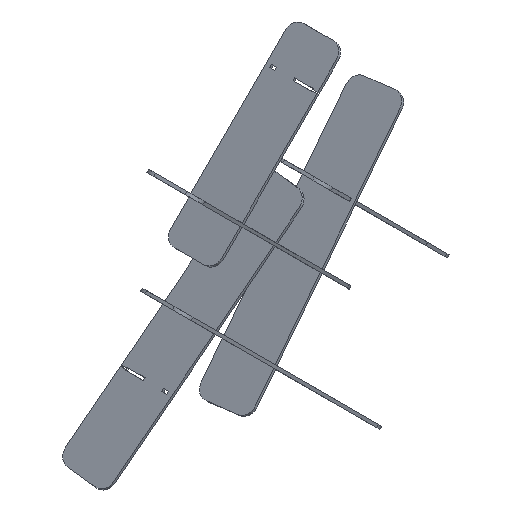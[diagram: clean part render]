
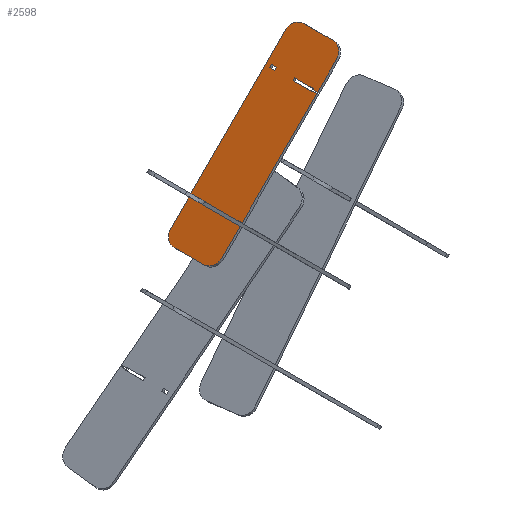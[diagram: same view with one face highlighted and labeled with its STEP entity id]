
A CAD part, isometric view. The second image highlights one B-rep face of the part: STEP entity #2598.
In plain terms, the highlighted planar face has unit normal (-0.707, 0, 0.707) as drawn and (0, 0, 1) by its records, which use the part's own axes.
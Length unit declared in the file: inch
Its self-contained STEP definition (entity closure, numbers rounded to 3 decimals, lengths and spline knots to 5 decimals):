
#61=FACE_BOUND('',#443,.T.);
#62=FACE_BOUND('',#444,.T.);
#176=PLANE('',#2824);
#302=FACE_OUTER_BOUND('',#442,.T.);
#442=EDGE_LOOP('',(#2429,#2430,#2431,#2432,#2433,#2434,#2435,#2436,#2437,
#2438,#2439,#2440,#2441,#2442,#2443,#2444,#2445,#2446,#2447,#2448,#2449,
#2450,#2451,#2452));
#443=EDGE_LOOP('',(#2453,#2454,#2455,#2456));
#444=EDGE_LOOP('',(#2457,#2458,#2459,#2460));
#697=LINE('',#4037,#1033);
#727=LINE('',#4105,#1063);
#731=LINE('',#4115,#1067);
#734=LINE('',#4124,#1070);
#736=LINE('',#4128,#1072);
#738=LINE('',#4132,#1074);
#740=LINE('',#4135,#1076);
#742=LINE('',#4140,#1078);
#744=LINE('',#4144,#1080);
#746=LINE('',#4148,#1082);
#748=LINE('',#4151,#1084);
#750=LINE('',#4156,#1086);
#752=LINE('',#4160,#1088);
#754=LINE('',#4164,#1090);
#756=LINE('',#4168,#1092);
#758=LINE('',#4172,#1094);
#760=LINE('',#4176,#1096);
#762=LINE('',#4180,#1098);
#764=LINE('',#4184,#1100);
#766=LINE('',#4188,#1102);
#768=LINE('',#4192,#1104);
#770=LINE('',#4196,#1106);
#772=LINE('',#4200,#1108);
#774=LINE('',#4204,#1110);
#776=LINE('',#4207,#1112);
#777=LINE('',#4209,#1113);
#778=LINE('',#4212,#1114);
#780=LINE('',#4215,#1116);
#1033=VECTOR('',#3315,0.3937);
#1063=VECTOR('',#3359,0.3937);
#1067=VECTOR('',#3369,0.3937);
#1070=VECTOR('',#3378,0.3937);
#1072=VECTOR('',#3382,0.3937);
#1074=VECTOR('',#3386,0.3937);
#1076=VECTOR('',#3390,0.3937);
#1078=VECTOR('',#3394,0.3937);
#1080=VECTOR('',#3398,0.3937);
#1082=VECTOR('',#3402,0.3937);
#1084=VECTOR('',#3406,0.3937);
#1086=VECTOR('',#3410,0.3937);
#1088=VECTOR('',#3414,0.3937);
#1090=VECTOR('',#3418,0.3937);
#1092=VECTOR('',#3422,0.3937);
#1094=VECTOR('',#3426,0.3937);
#1096=VECTOR('',#3430,0.3937);
#1098=VECTOR('',#3434,0.3937);
#1100=VECTOR('',#3438,0.3937);
#1102=VECTOR('',#3442,0.3937);
#1104=VECTOR('',#3446,0.3937);
#1106=VECTOR('',#3450,0.3937);
#1108=VECTOR('',#3454,0.3937);
#1110=VECTOR('',#3458,0.3937);
#1112=VECTOR('',#3462,0.3937);
#1113=VECTOR('',#3465,0.3937);
#1114=VECTOR('',#3468,0.3937);
#1116=VECTOR('',#3472,0.3937);
#1133=CIRCLE('',#2784,2.);
#1138=CIRCLE('',#2792,2.);
#1139=CIRCLE('',#2795,2.);
#1140=CIRCLE('',#2798,2.);
#1317=VERTEX_POINT('',#4024);
#1318=VERTEX_POINT('',#4025);
#1322=VERTEX_POINT('',#4035);
#1352=VERTEX_POINT('',#4099);
#1353=VERTEX_POINT('',#4103);
#1354=VERTEX_POINT('',#4107);
#1355=VERTEX_POINT('',#4108);
#1356=VERTEX_POINT('',#4113);
#1357=VERTEX_POINT('',#4117);
#1358=VERTEX_POINT('',#4121);
#1359=VERTEX_POINT('',#4123);
#1360=VERTEX_POINT('',#4127);
#1361=VERTEX_POINT('',#4131);
#1362=VERTEX_POINT('',#4137);
#1363=VERTEX_POINT('',#4139);
#1364=VERTEX_POINT('',#4143);
#1365=VERTEX_POINT('',#4147);
#1366=VERTEX_POINT('',#4153);
#1367=VERTEX_POINT('',#4155);
#1368=VERTEX_POINT('',#4159);
#1369=VERTEX_POINT('',#4163);
#1370=VERTEX_POINT('',#4167);
#1371=VERTEX_POINT('',#4171);
#1372=VERTEX_POINT('',#4175);
#1373=VERTEX_POINT('',#4179);
#1374=VERTEX_POINT('',#4183);
#1375=VERTEX_POINT('',#4187);
#1376=VERTEX_POINT('',#4191);
#1377=VERTEX_POINT('',#4195);
#1378=VERTEX_POINT('',#4199);
#1379=VERTEX_POINT('',#4203);
#1380=VERTEX_POINT('',#4211);
#1645=EDGE_CURVE('',#1317,#1318,#1133,.T.);
#1651=EDGE_CURVE('',#1317,#1322,#697,.T.);
#1682=EDGE_CURVE('',#1352,#1322,#1138,.T.);
#1685=EDGE_CURVE('',#1352,#1353,#727,.T.);
#1686=EDGE_CURVE('',#1354,#1355,#1139,.T.);
#1690=EDGE_CURVE('',#1354,#1356,#731,.T.);
#1691=EDGE_CURVE('',#1357,#1353,#1140,.T.);
#1694=EDGE_CURVE('',#1359,#1358,#734,.T.);
#1696=EDGE_CURVE('',#1360,#1359,#736,.T.);
#1698=EDGE_CURVE('',#1361,#1360,#738,.T.);
#1700=EDGE_CURVE('',#1358,#1361,#740,.T.);
#1702=EDGE_CURVE('',#1363,#1362,#742,.T.);
#1704=EDGE_CURVE('',#1364,#1363,#744,.T.);
#1706=EDGE_CURVE('',#1365,#1364,#746,.T.);
#1708=EDGE_CURVE('',#1362,#1365,#748,.T.);
#1710=EDGE_CURVE('',#1367,#1366,#750,.T.);
#1712=EDGE_CURVE('',#1368,#1367,#752,.T.);
#1714=EDGE_CURVE('',#1369,#1368,#754,.T.);
#1716=EDGE_CURVE('',#1370,#1369,#756,.T.);
#1718=EDGE_CURVE('',#1371,#1370,#758,.T.);
#1720=EDGE_CURVE('',#1372,#1371,#760,.T.);
#1722=EDGE_CURVE('',#1373,#1372,#762,.T.);
#1724=EDGE_CURVE('',#1374,#1373,#764,.T.);
#1726=EDGE_CURVE('',#1375,#1374,#766,.T.);
#1728=EDGE_CURVE('',#1376,#1375,#768,.T.);
#1730=EDGE_CURVE('',#1377,#1376,#770,.T.);
#1732=EDGE_CURVE('',#1378,#1377,#772,.T.);
#1734=EDGE_CURVE('',#1379,#1378,#774,.T.);
#1736=EDGE_CURVE('',#1356,#1379,#776,.T.);
#1737=EDGE_CURVE('',#1357,#1355,#777,.T.);
#1738=EDGE_CURVE('',#1380,#1318,#778,.T.);
#1740=EDGE_CURVE('',#1366,#1380,#780,.T.);
#2429=ORIENTED_EDGE('',*,*,#1645,.F.);
#2430=ORIENTED_EDGE('',*,*,#1651,.T.);
#2431=ORIENTED_EDGE('',*,*,#1682,.F.);
#2432=ORIENTED_EDGE('',*,*,#1685,.T.);
#2433=ORIENTED_EDGE('',*,*,#1691,.F.);
#2434=ORIENTED_EDGE('',*,*,#1737,.T.);
#2435=ORIENTED_EDGE('',*,*,#1686,.F.);
#2436=ORIENTED_EDGE('',*,*,#1690,.T.);
#2437=ORIENTED_EDGE('',*,*,#1736,.T.);
#2438=ORIENTED_EDGE('',*,*,#1734,.T.);
#2439=ORIENTED_EDGE('',*,*,#1732,.T.);
#2440=ORIENTED_EDGE('',*,*,#1730,.T.);
#2441=ORIENTED_EDGE('',*,*,#1728,.T.);
#2442=ORIENTED_EDGE('',*,*,#1726,.T.);
#2443=ORIENTED_EDGE('',*,*,#1724,.T.);
#2444=ORIENTED_EDGE('',*,*,#1722,.T.);
#2445=ORIENTED_EDGE('',*,*,#1720,.T.);
#2446=ORIENTED_EDGE('',*,*,#1718,.T.);
#2447=ORIENTED_EDGE('',*,*,#1716,.T.);
#2448=ORIENTED_EDGE('',*,*,#1714,.T.);
#2449=ORIENTED_EDGE('',*,*,#1712,.T.);
#2450=ORIENTED_EDGE('',*,*,#1710,.T.);
#2451=ORIENTED_EDGE('',*,*,#1740,.T.);
#2452=ORIENTED_EDGE('',*,*,#1738,.T.);
#2453=ORIENTED_EDGE('',*,*,#1708,.T.);
#2454=ORIENTED_EDGE('',*,*,#1706,.T.);
#2455=ORIENTED_EDGE('',*,*,#1704,.T.);
#2456=ORIENTED_EDGE('',*,*,#1702,.T.);
#2457=ORIENTED_EDGE('',*,*,#1700,.T.);
#2458=ORIENTED_EDGE('',*,*,#1698,.T.);
#2459=ORIENTED_EDGE('',*,*,#1696,.T.);
#2460=ORIENTED_EDGE('',*,*,#1694,.T.);
#2598=ADVANCED_FACE('',(#302,#61,#62),#176,.T.);
#2784=AXIS2_PLACEMENT_3D('',#4026,#3305,#3306);
#2792=AXIS2_PLACEMENT_3D('',#4100,#3353,#3354);
#2795=AXIS2_PLACEMENT_3D('',#4109,#3362,#3363);
#2798=AXIS2_PLACEMENT_3D('',#4118,#3372,#3373);
#2824=AXIS2_PLACEMENT_3D('',#4216,#3473,#3474);
#3305=DIRECTION('center_axis',(0.,0.,-1.));
#3306=DIRECTION('ref_axis',(0.707,-0.707,0.));
#3315=DIRECTION('',(0.,1.,0.));
#3353=DIRECTION('center_axis',(0.,0.,-1.));
#3354=DIRECTION('ref_axis',(0.707,0.707,0.));
#3359=DIRECTION('',(-1.,0.,0.));
#3362=DIRECTION('center_axis',(0.,0.,-1.));
#3363=DIRECTION('ref_axis',(-0.707,-0.707,0.));
#3369=DIRECTION('',(1.,0.,0.));
#3372=DIRECTION('center_axis',(0.,0.,-1.));
#3373=DIRECTION('ref_axis',(-0.707,0.707,0.));
#3378=DIRECTION('',(0.,1.,0.));
#3382=DIRECTION('',(-1.,0.,0.));
#3386=DIRECTION('',(0.,-1.,0.));
#3390=DIRECTION('',(1.,0.,0.));
#3394=DIRECTION('',(0.,1.,0.));
#3398=DIRECTION('',(-1.,0.,0.));
#3402=DIRECTION('',(0.,-1.,0.));
#3406=DIRECTION('',(1.,0.,0.));
#3410=DIRECTION('',(-1.,0.,0.));
#3414=DIRECTION('',(0.,-1.,0.));
#3418=DIRECTION('',(1.,0.,0.));
#3422=DIRECTION('',(0.,1.,0.));
#3426=DIRECTION('',(-1.,0.,0.));
#3430=DIRECTION('',(0.,1.,0.));
#3434=DIRECTION('',(1.,0.,0.));
#3438=DIRECTION('',(0.,-1.,0.));
#3442=DIRECTION('',(-1.,0.,0.));
#3446=DIRECTION('',(0.,-1.,0.));
#3450=DIRECTION('',(1.,0.,0.));
#3454=DIRECTION('',(0.,1.,0.));
#3458=DIRECTION('',(-1.,0.,0.));
#3462=DIRECTION('',(0.,1.,0.));
#3465=DIRECTION('',(0.,-1.,0.));
#3468=DIRECTION('',(1.,0.,0.));
#3472=DIRECTION('',(0.,-1.,0.));
#3473=DIRECTION('center_axis',(0.,0.,1.));
#3474=DIRECTION('ref_axis',(1.,0.,0.));
#4024=CARTESIAN_POINT('',(34.,2.,0.48));
#4025=CARTESIAN_POINT('',(32.,0.,0.48));
#4026=CARTESIAN_POINT('Origin',(32.,2.,0.48));
#4035=CARTESIAN_POINT('',(34.,7.5,0.48));
#4037=CARTESIAN_POINT('',(34.,0.,0.48));
#4099=CARTESIAN_POINT('',(32.,9.5,0.48));
#4100=CARTESIAN_POINT('Origin',(32.,7.5,0.48));
#4103=CARTESIAN_POINT('',(2.,9.5,0.48));
#4105=CARTESIAN_POINT('',(34.,9.5,0.48));
#4107=CARTESIAN_POINT('',(2.,0.,0.48));
#4108=CARTESIAN_POINT('',(0.,2.,0.48));
#4109=CARTESIAN_POINT('Origin',(2.,2.,0.48));
#4113=CARTESIAN_POINT('',(6.91278,0.,0.48));
#4115=CARTESIAN_POINT('',(0.,0.,0.48));
#4117=CARTESIAN_POINT('',(0.,7.5,0.48));
#4118=CARTESIAN_POINT('Origin',(2.,7.5,0.48));
#4121=CARTESIAN_POINT('',(26.76718,8.68,0.48));
#4123=CARTESIAN_POINT('',(26.76718,7.74,0.48));
#4124=CARTESIAN_POINT('',(26.76718,7.74,0.48));
#4127=CARTESIAN_POINT('',(27.22722,7.74,0.48));
#4128=CARTESIAN_POINT('',(27.22722,7.74,0.48));
#4131=CARTESIAN_POINT('',(27.22722,8.68,0.48));
#4132=CARTESIAN_POINT('',(27.22722,8.68,0.48));
#4135=CARTESIAN_POINT('',(26.76718,8.68,0.48));
#4137=CARTESIAN_POINT('',(6.77278,8.68,0.48));
#4139=CARTESIAN_POINT('',(6.77278,7.74,0.48));
#4140=CARTESIAN_POINT('',(6.77278,7.74,0.48));
#4143=CARTESIAN_POINT('',(7.23282,7.74,0.48));
#4144=CARTESIAN_POINT('',(7.23282,7.74,0.48));
#4147=CARTESIAN_POINT('',(7.23282,8.68,0.48));
#4148=CARTESIAN_POINT('',(7.23282,8.68,0.48));
#4151=CARTESIAN_POINT('',(6.77278,8.68,0.48));
#4153=CARTESIAN_POINT('',(27.08722,0.94,0.48));
#4155=CARTESIAN_POINT('',(27.22722,0.94,0.48));
#4156=CARTESIAN_POINT('',(27.22722,0.94,0.48));
#4159=CARTESIAN_POINT('',(27.22722,4.34004,0.48));
#4160=CARTESIAN_POINT('',(27.22722,4.34004,0.48));
#4163=CARTESIAN_POINT('',(26.76718,4.34004,0.48));
#4164=CARTESIAN_POINT('',(26.76718,4.34004,0.48));
#4167=CARTESIAN_POINT('',(26.76718,0.94,0.48));
#4168=CARTESIAN_POINT('',(26.76718,0.94,0.48));
#4171=CARTESIAN_POINT('',(26.90718,0.94,0.48));
#4172=CARTESIAN_POINT('',(26.90718,0.94,0.48));
#4175=CARTESIAN_POINT('',(26.90718,0.,0.48));
#4176=CARTESIAN_POINT('',(26.90718,0.,0.48));
#4179=CARTESIAN_POINT('',(7.09282,0.,0.48));
#4180=CARTESIAN_POINT('',(0.,0.,0.48));
#4183=CARTESIAN_POINT('',(7.09282,0.94,0.48));
#4184=CARTESIAN_POINT('',(7.09282,0.94,0.48));
#4187=CARTESIAN_POINT('',(7.23282,0.94,0.48));
#4188=CARTESIAN_POINT('',(7.23282,0.94,0.48));
#4191=CARTESIAN_POINT('',(7.23282,4.34004,0.48));
#4192=CARTESIAN_POINT('',(7.23282,4.34004,0.48));
#4195=CARTESIAN_POINT('',(6.77278,4.34004,0.48));
#4196=CARTESIAN_POINT('',(6.77278,4.34004,0.48));
#4199=CARTESIAN_POINT('',(6.77278,0.94,0.48));
#4200=CARTESIAN_POINT('',(6.77278,0.94,0.48));
#4203=CARTESIAN_POINT('',(6.91278,0.94,0.48));
#4204=CARTESIAN_POINT('',(6.91278,0.94,0.48));
#4207=CARTESIAN_POINT('',(6.91278,0.,0.48));
#4209=CARTESIAN_POINT('',(0.,9.5,0.48));
#4211=CARTESIAN_POINT('',(27.08722,0.,0.48));
#4212=CARTESIAN_POINT('',(0.,0.,0.48));
#4215=CARTESIAN_POINT('',(27.08722,0.94,0.48));
#4216=CARTESIAN_POINT('Origin',(17.,4.75,0.48));
